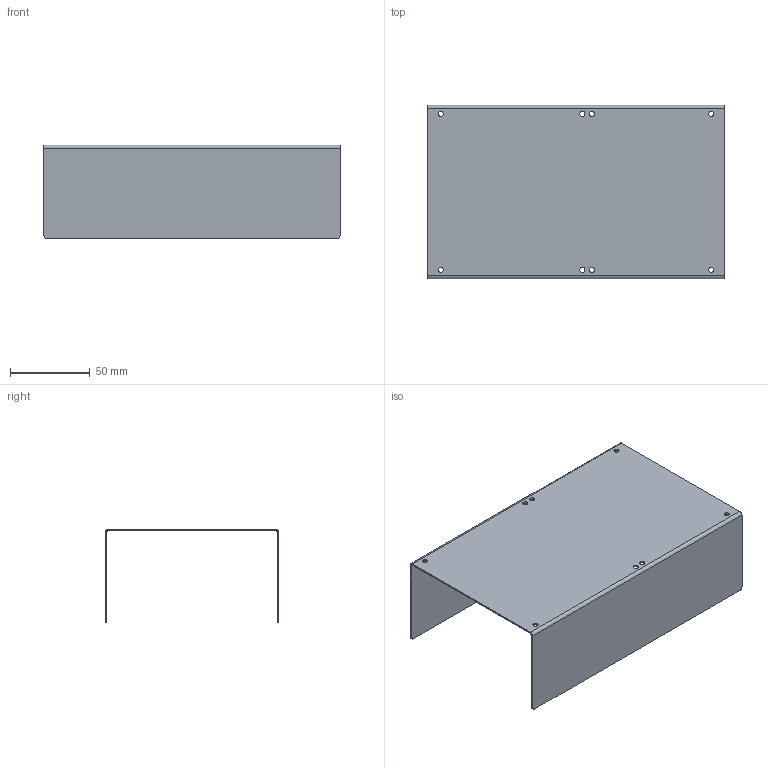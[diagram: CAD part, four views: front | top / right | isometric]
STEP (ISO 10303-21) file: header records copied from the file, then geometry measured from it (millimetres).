
FILE_DESCRIPTION(('FreeCAD Model'),'2;1');
FILE_NAME('Open CASCADE Shape Model','2021-12-19T00:04:55',('Author'),( ''),'Open CASCADE STEP processor 7.4','FreeCAD','Unknown');
FILE_SCHEMA(('AUTOMOTIVE_DESIGN { 1 0 10303 214 1 1 1 1 }'));
Length unit declared in the file: millimetre
Products named in the file (1): Cut009
Bounding box: 186 x 109 x 59 mm (x, y, z)
Volume: 41542.7 mm3; surface area: 83981.9 mm2
Topology: 1 solids, 1 shells, 34 faces, 80 edges, 48 vertices
Faces by surface type: plane 18, cylinder 16
Full cylindrical faces by diameter (mm): 3.2 x8
Entity records: 2070 total; most frequent: CARTESIAN_POINT 351, DIRECTION 334, LINE 172, VECTOR 172, ORIENTED_EDGE 160, PCURVE 160, DEFINITIONAL_REPRESENTATION 160, EDGE_CURVE 80
